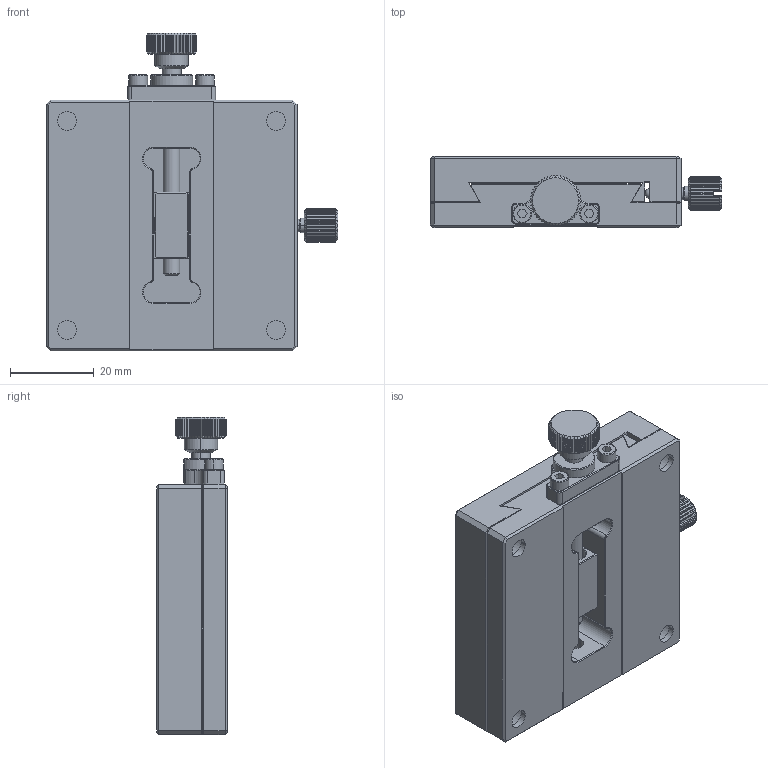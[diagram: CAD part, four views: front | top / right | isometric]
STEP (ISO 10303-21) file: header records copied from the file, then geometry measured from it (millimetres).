
FILE_DESCRIPTION((''),'2;1');
FILE_NAME('ASSY-60-R_ASM','2021-06-28T16:26:27',('windows10'),(''),'CREO PARAMETRIC BY PTC INC, 2018260','CREO PARAMETRIC BY PTC INC, 2018260','');
FILE_SCHEMA(('CONFIG_CONTROL_DESIGN'));
Length unit declared in the file: millimetre
Products named in the file (12): BOTTOM-60-60-17; TOP-60-60-17; COUPLER-4060; SCREW-M2D5-4; HANDLE-12-M4-60; HOLDER-HANDLE; E-RING-3-7; ASSY-HANDLE-12-M4-60_ASM; 2D5-10; BALL-2D381; STOPPER-8-M3-16; ASSY-60-R_ASM
Assembly tree (13 placements, depth 3):
  ASSY-60-R_ASM
    BOTTOM-60-60-17
    TOP-60-60-17
    COUPLER-4060
    SCREW-M2D5-4  x2
    ASSY-HANDLE-12-M4-60_ASM
      HANDLE-12-M4-60
      HOLDER-HANDLE
      E-RING-3-7
    2D5-10  x2
    BALL-2D381
    STOPPER-8-M3-16
Bounding box: 69.74 x 16.9 x 76 mm (x, y, z)
Volume: 56512.7 mm3; surface area: 26564.6 mm2
Topology: 12 solids, 12 shells, 759 faces, 1947 edges, 1232 vertices
Faces by surface type: plane 383, cylinder 239, cone 119, torus 12, sphere 6
Entity records: 22636 total; most frequent: CARTESIAN_POINT 4993, ORIENTED_EDGE 3682, DIRECTION 3608, EDGE_CURVE 1841, AXIS2_PLACEMENT_3D 1353, VERTEX_POINT 1168, VECTOR 902, LINE 902
